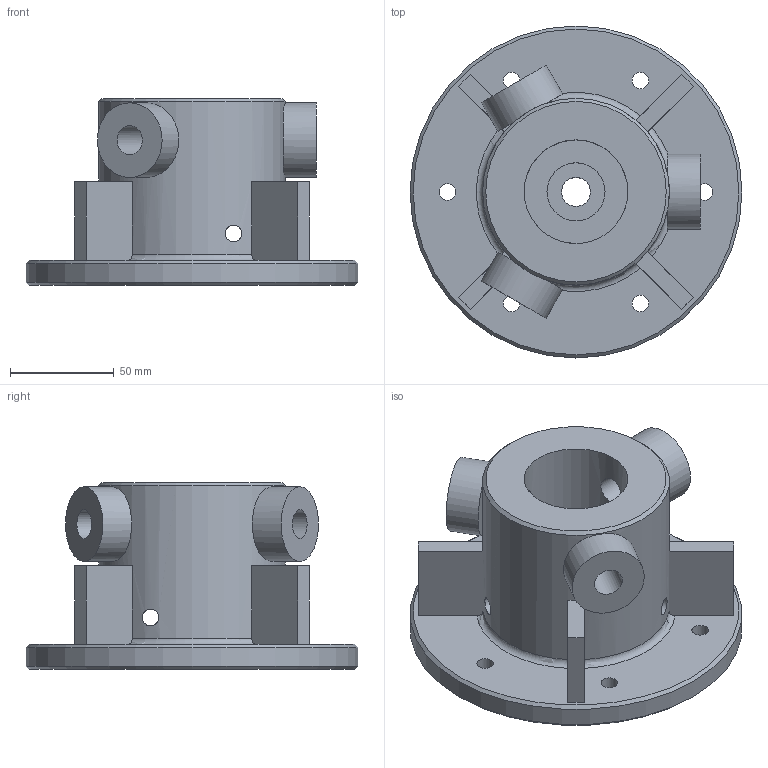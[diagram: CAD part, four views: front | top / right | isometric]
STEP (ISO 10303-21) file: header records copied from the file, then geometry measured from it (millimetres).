
FILE_DESCRIPTION(('Open CASCADE Model'),'2;1');
FILE_NAME('Open CASCADE Shape Model','2026-11-13T18:44:19',('Author'),( 'Open CASCADE'),'Open CASCADE STEP processor 7.8','Open CASCADE 7.8' ,'Unknown');
FILE_SCHEMA(('AUTOMOTIVE_DESIGN { 1 0 10303 214 1 1 1 1 }'));
Length unit declared in the file: millimetre
Products named in the file (1): Open CASCADE STEP translator 7.8 1
Bounding box: 160 x 160 x 90 mm (x, y, z)
Volume: 701034.3 mm3; surface area: 101218.8 mm2
Topology: 1 solids, 1 shells, 58 faces, 153 edges, 99 vertices
Faces by surface type: plane 30, cylinder 21, torus 4, cone 3
Full cylindrical faces by diameter (mm): 8 x10, 14 x4, 28 x1, 36 x3, 50 x1, 90 x1, 160 x1
Entity records: 6482 total; most frequent: CARTESIAN_POINT 3513, DIRECTION 504, ORIENTED_EDGE 306, PCURVE 306, DEFINITIONAL_REPRESENTATION 306, LINE 236, VECTOR 236, EDGE_CURVE 153
